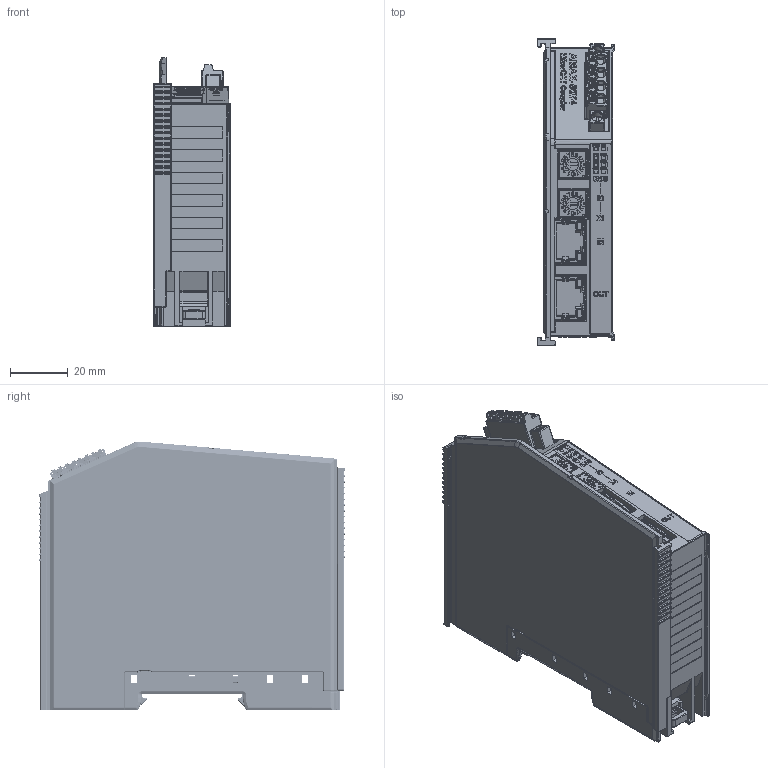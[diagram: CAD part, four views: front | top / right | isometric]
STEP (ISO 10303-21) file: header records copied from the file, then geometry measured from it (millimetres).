
FILE_DESCRIPTION (( 'STEP AP203' ), '1' );
FILE_NAME ('assy_AMAX-5074.STEP', '2020-03-25T03:50:14', ( '' ), ( '' ), 'SwSTEP 2.0', 'SolidWorks 2018', '' );
FILE_SCHEMA (( 'CONFIG_CONTROL_DESIGN' ));
Products named in the file (1): assy_AMAX-5074
Bounding box: 26.55 x 105.9 x 93.01 mm (x, y, z)
Volume: 172640.5 mm3; surface area: 64491.5 mm2
Topology: 43 solids, 47 shells, 8207 faces, 22448 edges, 14172 vertices
Faces by surface type: plane 5231, cylinder 1729, bspline 834, torus 192, sphere 168, cone 53
Entity records: 284176 total; most frequent: CARTESIAN_POINT 82949, ORIENTED_EDGE 44330, DIRECTION 38100, EDGE_CURVE 22165, VECTOR 16584, LINE 16584, VERTEX_POINT 14170, AXIS2_PLACEMENT_3D 10758
